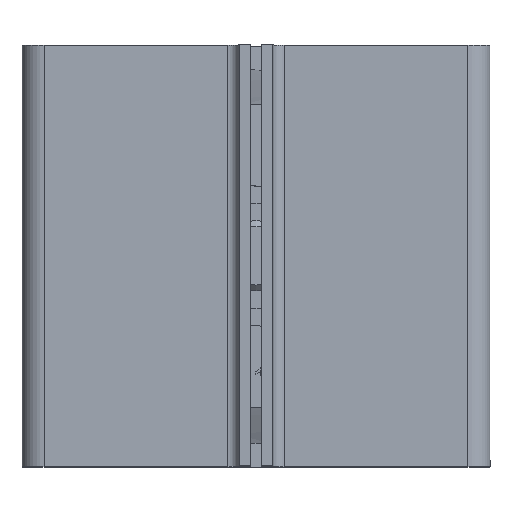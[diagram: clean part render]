
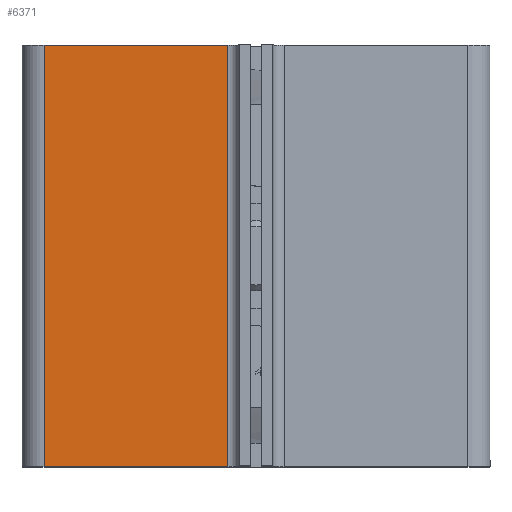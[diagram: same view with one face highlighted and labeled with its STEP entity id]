
A CAD part, top view. The second image highlights one B-rep face of the part: STEP entity #6371.
In plain terms, the highlighted planar face has unit normal (0, 0, 1).
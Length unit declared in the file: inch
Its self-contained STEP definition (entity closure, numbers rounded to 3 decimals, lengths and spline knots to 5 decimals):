
#400=LINE('',#8432,#951);
#403=LINE('',#8438,#954);
#427=LINE('',#8496,#978);
#429=LINE('',#8503,#980);
#951=VECTOR('',#7189,2.25);
#954=VECTOR('',#7194,0.98155);
#978=VECTOR('',#7252,2.25);
#980=VECTOR('',#7260,0.98155);
#1538=PLANE('',#6789);
#1864=FACE_OUTER_BOUND('',#2252,.T.);
#2252=EDGE_LOOP('',(#4371,#4372,#4373,#4374));
#2730=VERTEX_POINT('',#8417);
#2731=VERTEX_POINT('',#8421);
#2734=VERTEX_POINT('',#8436);
#2751=VERTEX_POINT('',#8495);
#3341=EDGE_CURVE('',#2730,#2731,#400,.T.);
#3344=EDGE_CURVE('',#2734,#2731,#403,.T.);
#3372=EDGE_CURVE('',#2734,#2751,#427,.T.);
#3376=EDGE_CURVE('',#2730,#2751,#429,.T.);
#4371=ORIENTED_EDGE('',*,*,#3341,.T.);
#4372=ORIENTED_EDGE('',*,*,#3344,.F.);
#4373=ORIENTED_EDGE('',*,*,#3372,.T.);
#4374=ORIENTED_EDGE('',*,*,#3376,.F.);
#6371=ADVANCED_FACE('',(#1864),#1538,.F.);
#6789=AXIS2_PLACEMENT_3D('',#8513,#7272,#7273);
#7189=DIRECTION('',(0.,1.,0.));
#7194=DIRECTION('',(1.,0.,0.));
#7252=DIRECTION('',(0.,-1.,0.));
#7260=DIRECTION('',(-1.,0.,0.));
#7272=DIRECTION('center_axis',(0.,0.,
-1.));
#7273=DIRECTION('ref_axis',(-1.,0.,0.));
#8417=CARTESIAN_POINT('',(-0.14985,-1.125,3.125));
#8421=CARTESIAN_POINT('',(-0.14985,1.125,3.125));
#8432=CARTESIAN_POINT('',(-0.14985,0.5625,3.125));
#8436=CARTESIAN_POINT('',(-1.1314,1.125,3.125));
#8438=CARTESIAN_POINT('',(-1.1314,1.125,3.125));
#8495=CARTESIAN_POINT('',(-1.1314,-1.125,3.125));
#8496=CARTESIAN_POINT('',(-1.1314,0.,3.125));
#8503=CARTESIAN_POINT('',(-1.39967,-1.125,3.125));
#8513=CARTESIAN_POINT('Origin',(-0.64839,0.,
3.125));
